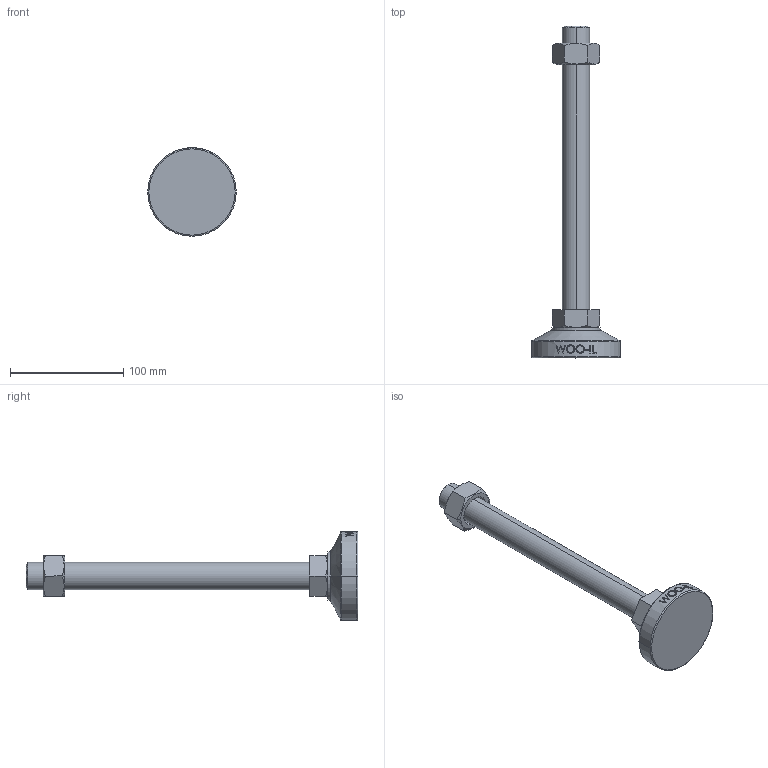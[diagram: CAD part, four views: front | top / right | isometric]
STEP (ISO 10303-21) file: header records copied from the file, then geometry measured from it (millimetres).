
FILE_DESCRIPTION (( 'STEP AP214' ), '1' );
FILE_NAME ('MFB78-M24-250.step', '2022-06-27T08:35:50', ( '' ), ( '' ), 'SwSTEP 2.0', 'SolidWorks 2019', '' );
FILE_SCHEMA (( 'AUTOMOTIVE_DESIGN' ));
Length unit declared in the file: millimetre
Products named in the file (1): MFB78-M24-250
Bounding box: 78 x 292.5 x 78 mm (x, y, z)
Volume: 245800.8 mm3; surface area: 41674.7 mm2
Topology: 3 solids, 3 shells, 97 faces, 225 edges, 144 vertices
Faces by surface type: plane 47, cylinder 16, bspline 16, cone 14, torus 4
Entity records: 4305 total; most frequent: CARTESIAN_POINT 2175, ORIENTED_EDGE 450, DIRECTION 385, EDGE_CURVE 225, AXIS2_PLACEMENT_3D 144, VERTEX_POINT 144, EDGE_LOOP 109, FACE_OUTER_BOUND 97
